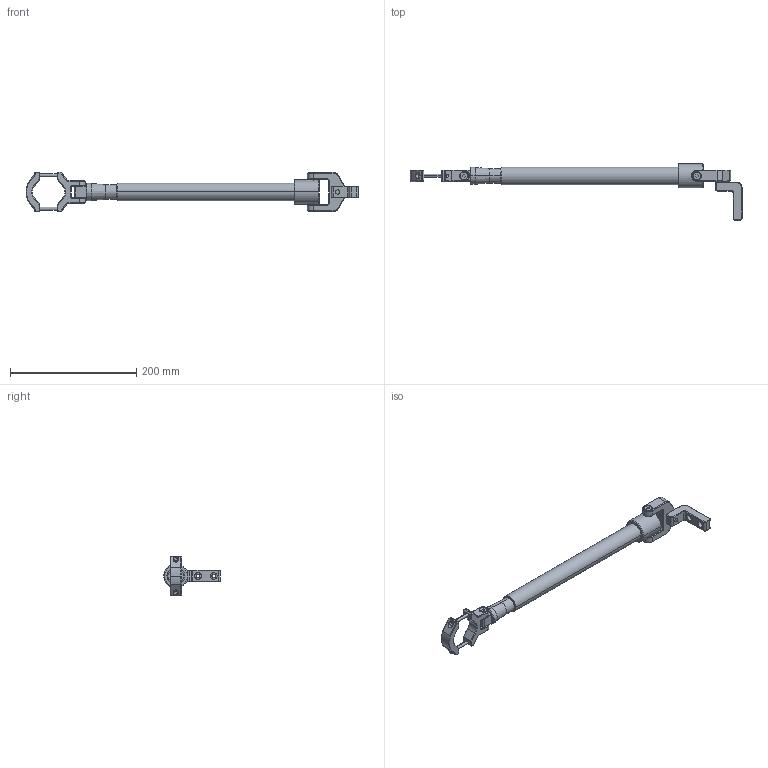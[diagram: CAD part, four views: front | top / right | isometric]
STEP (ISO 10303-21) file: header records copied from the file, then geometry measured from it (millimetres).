
FILE_DESCRIPTION (( 'STEP AP214' ), '1' );
FILE_NAME ('CAR281.STEP', '2013-09-02T06:33:02', ( '' ), ( '' ), 'SwSTEP 2.0', 'SolidWorks 2013', '' );
FILE_SCHEMA (( 'AUTOMOTIVE_DESIGN' ));
Length unit declared in the file: millimetre
Products named in the file (1): CAR281
Bounding box: 525.09 x 89 x 63 mm (x, y, z)
Volume: 240220.6 mm3; surface area: 201391.3 mm2
Topology: 21 solids, 21 shells, 543 faces, 1204 edges, 732 vertices
Faces by surface type: plane 217, cylinder 189, cone 137
Entity records: 21657 total; most frequent: CARTESIAN_POINT 3108, DIRECTION 2714, ORIENTED_EDGE 2400, EDGE_CURVE 1200, AXIS2_PLACEMENT_3D 1016, VERTEX_POINT 732, VECTOR 682, LINE 682
